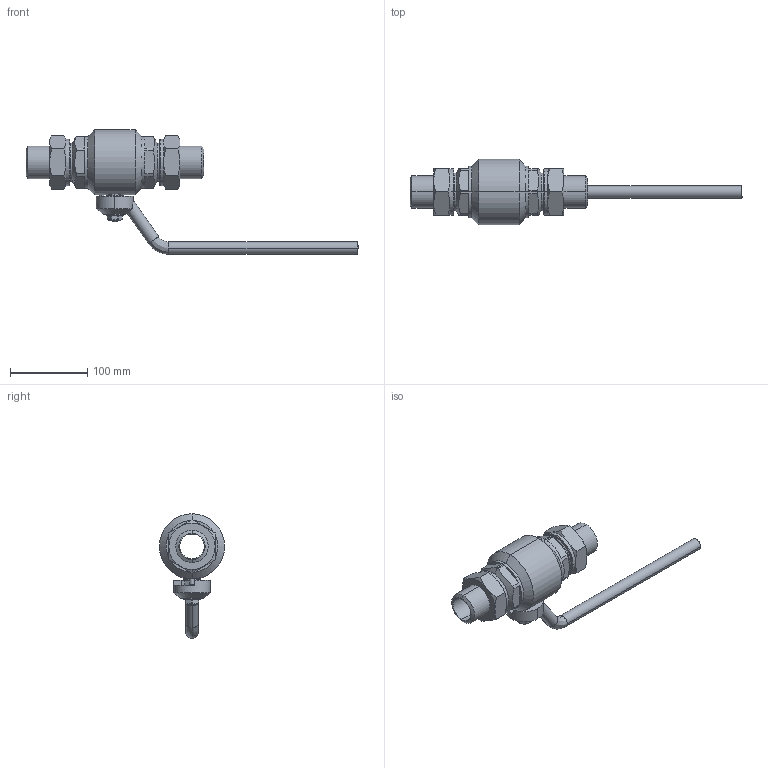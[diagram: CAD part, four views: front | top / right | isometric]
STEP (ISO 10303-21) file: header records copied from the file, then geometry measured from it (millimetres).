
FILE_DESCRIPTION (( 'STEP AP214' ), '1' );
FILE_NAME ('ﾇﾀﾐﾄﾏ 032.016-100.30-ﾕﾕ.ﾐ.STEP', '2016-09-26T08:14:16', ( '1' ), ( '' ), 'SwSTEP 2.0', 'SolidWorks 2014', '' );
FILE_SCHEMA (( 'AUTOMOTIVE_DESIGN' ));
Length unit declared in the file: millimetre
Products named in the file (1): ﾇﾀﾐﾄﾏ 032.016-100.30-ﾕﾕ.ﾐ
Bounding box: 430.01 x 84.5 x 161.25 mm (x, y, z)
Volume: 607969.8 mm3; surface area: 121961.5 mm2
Topology: 9 solids, 9 shells, 323 faces, 749 edges, 461 vertices
Faces by surface type: plane 120, cone 93, cylinder 92, bspline 14, torus 4
Entity records: 10711 total; most frequent: CARTESIAN_POINT 3263, DIRECTION 1580, ORIENTED_EDGE 1498, EDGE_CURVE 749, AXIS2_PLACEMENT_3D 641, VERTEX_POINT 461, EDGE_LOOP 350, CIRCLE 331
